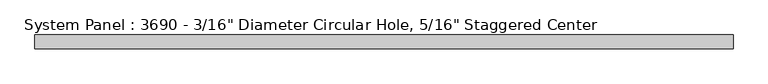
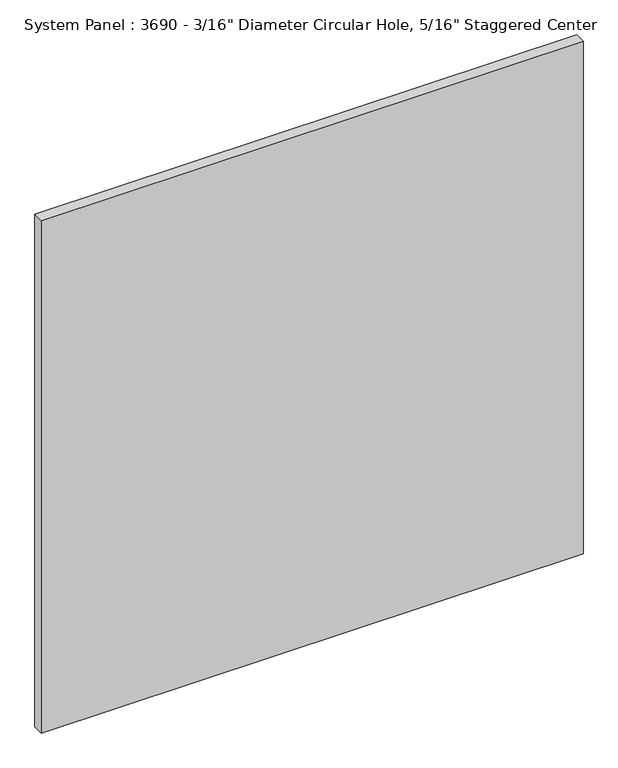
"""IFC4 building model written with IfcOpenShell, lengths in millimetres: plate geometry."""

from ifc_helpers import new_model, si_unit, origin, origin_with_axes, place, context, project, spatial, polyline, outline, extrude, source, transform, mapped, element, save


def plate_a09a0795(model_context):
    return source(origin(), model_context, "Body", "SweptSolid", [
        extrude(outline(polyline([(2500.0000002, -50.0), (-2500.0000002, -50.0), (-2500.0000002, 50.0), (2500.0000002, 50.0), (2500.0000002, -50.0)])), origin_with_axes(), (0.0, 0.0, 1.0), 5000.0),
    ])


if __name__ == "__main__":
    model = new_model("IFC4")
    model_context = context("Model", 3, world=origin())
    ifc_project = project(units=[si_unit("LENGTHUNIT", "METRE", prefix="MILLI")], contexts=[model_context])
    site = spatial("IfcSite", under=ifc_project)
    building = spatial("IfcBuilding", under=site)
    placement = place(None, origin())
    plate_shape = plate_a09a0795(model_context)
    element("IfcPlate", 1, ObjectType="System Panel : 3690 - 3/16\" Diameter Circular Hole, 5/16\" Staggered Center", at=placement, inside=building, context=model_context, shape_type="MappedRepresentation", body=[
        mapped(plate_shape, transform((0.0, 0.0, 0.0), x_axis=(1.0, 0.0, 0.0), y_axis=(0.0, 1.0, 0.0), z_axis=(0.0, 0.0, 1.0))),
    ])
    save(model, "model.ifc")
